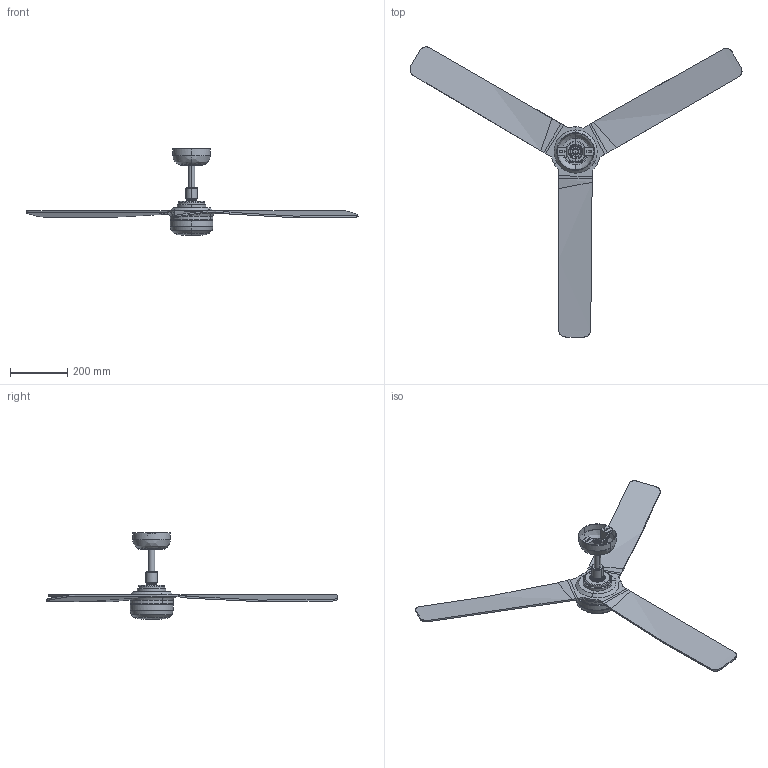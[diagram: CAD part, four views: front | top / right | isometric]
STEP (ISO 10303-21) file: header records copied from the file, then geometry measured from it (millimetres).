
FILE_DESCRIPTION(/* description */ (''),/* implementation_level */ '2;1');
FILE_NAME(/* name */ 'punt_led_3d',/* time_stamp */ '2026-06-02T12:25:53+02:00',/* author */ (''),/* organization */ (''),/* preprocessor_version */ 'ST-DEVELOPER v19.2',/* originating_system */ 'Rhino 8.30',/* authorisation */ '');
FILE_SCHEMA (('CONFIG_CONTROL_DESIGN'));
Length unit declared in the file: millimetre
Products named in the file (11): Document; Product; PUNT_ - fan-480269-Export; Bloque 01; Bloque 02; Bloque 03; Bloque 04; Bloque 05; Bloque 06; Bloque 07; Bloque 08
Bounding box: 1164.32 x 1017.63 x 302.75 mm (x, y, z)
Surface area: 733863.1 mm2 (no closed solid volume)
Topology: 0 solids, 342 shells, 343 faces, 1845 edges, 1844 vertices
Faces by surface type: plane 141, bspline 117, cylinder 85
Entity records: 33500 total; most frequent: CARTESIAN_POINT 18432, ORIENTED_EDGE 1846, EDGE_CURVE 1845, VERTEX_POINT 1844, B_SPLINE_CURVE_WITH_KNOTS 1477, DIRECTION 1020, AXIS2_PLACEMENT_3D 623, TRIMMED_CURVE 368
